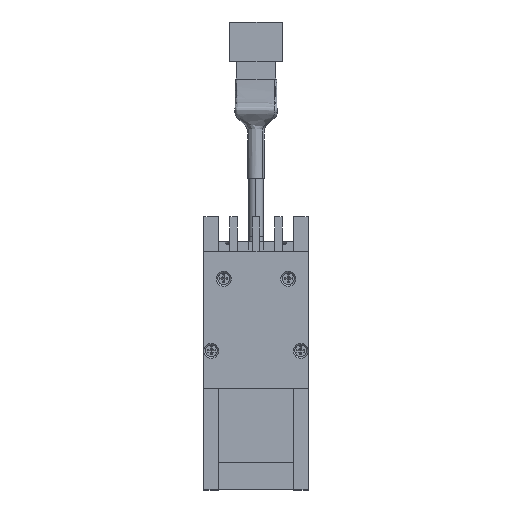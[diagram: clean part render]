
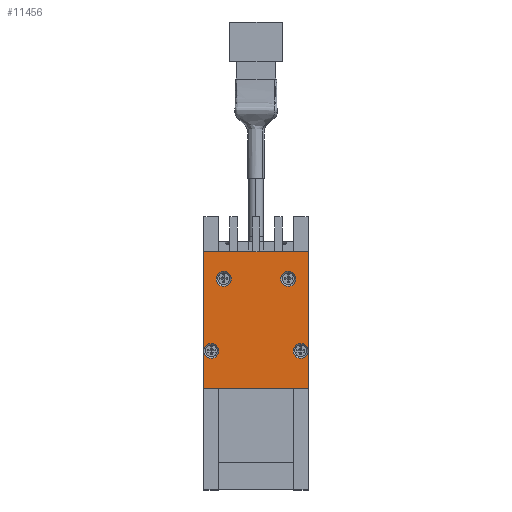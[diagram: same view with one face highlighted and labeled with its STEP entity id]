
A CAD part, front view. The second image highlights one B-rep face of the part: STEP entity #11456.
In plain terms, the highlighted planar face has unit normal (0, -1, 0).
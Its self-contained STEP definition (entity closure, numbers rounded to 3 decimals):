
#115 = LINE ( 'NONE', #14475, #6751 ) ;
#376 = EDGE_CURVE ( 'NONE', #4351, #19291, #6813, .T. ) ;
#711 = VECTOR ( 'NONE', #4181, 1000. ) ;
#1157 = VECTOR ( 'NONE', #3194, 1000. ) ;
#1279 = EDGE_CURVE ( 'NONE', #3621, #3084, #1948, .T. ) ;
#1294 = CARTESIAN_POINT ( 'NONE',  ( 6.5, -7.5, 29.5 ) ) ;
#1612 = AXIS2_PLACEMENT_3D ( 'NONE', #8179, #6284, #9794 ) ;
#1717 = VERTEX_POINT ( 'NONE', #15881 ) ;
#1757 = DIRECTION ( 'NONE',  ( 0., 0., 1. ) ) ;
#1937 = EDGE_CURVE ( 'NONE', #3084, #3621, #9182, .T. ) ;
#1948 = CIRCLE ( 'NONE', #5490, 1.5 ) ;
#2697 = ORIENTED_EDGE ( 'NONE', *, *, #1937, .F. ) ;
#2852 = DIRECTION ( 'NONE',  ( -1., 0., 0. ) ) ;
#2904 = ORIENTED_EDGE ( 'NONE', *, *, #4687, .F. ) ;
#2981 = CARTESIAN_POINT ( 'NONE',  ( -9., -7.5, 13.5 ) ) ;
#3084 = VERTEX_POINT ( 'NONE', #13062 ) ;
#3094 = VECTOR ( 'NONE', #17637, 1000. ) ;
#3194 = DIRECTION ( 'NONE',  ( 0., 0., 1. ) ) ;
#3370 = LINE ( 'NONE', #7767, #22114 ) ;
#3621 = VERTEX_POINT ( 'NONE', #8538 ) ;
#3804 = DIRECTION ( 'NONE',  ( 0., -1., 0. ) ) ;
#3852 = DIRECTION ( 'NONE',  ( 0., -1., 0. ) ) ;
#3950 = ORIENTED_EDGE ( 'NONE', *, *, #17209, .F. ) ;
#4076 = EDGE_CURVE ( 'NONE', #15916, #1717, #12455, .T. ) ;
#4181 = DIRECTION ( 'NONE',  ( 1., 0., 0. ) ) ;
#4187 = DIRECTION ( 'NONE',  ( 0., -1., 0. ) ) ;
#4351 = VERTEX_POINT ( 'NONE', #15507 ) ;
#4687 = EDGE_CURVE ( 'NONE', #15150, #13618, #6264, .T. ) ;
#4766 = DIRECTION ( 'NONE',  ( 0., -1., 0. ) ) ;
#5186 = DIRECTION ( 'NONE',  ( 0., -1., 0. ) ) ;
#5218 = EDGE_LOOP ( 'NONE', ( #21464, #20308, #18436, #8072, #10151, #13320, #11448, #2904, #11062, #3950, #19428, #9756 ) ) ;
#5425 = CARTESIAN_POINT ( 'NONE',  ( -10.5, -7.5, 35. ) ) ;
#5490 = AXIS2_PLACEMENT_3D ( 'NONE', #1294, #6337, #21932 ) ;
#5685 = LINE ( 'NONE', #11934, #1157 ) ;
#5701 = PLANE ( 'NONE',  #1612 ) ;
#5727 = DIRECTION ( 'NONE',  ( 0., 0., 1. ) ) ;
#6264 = CIRCLE ( 'NONE', #15629, 1.5 ) ;
#6284 = DIRECTION ( 'NONE',  ( 0., -1., 0. ) ) ;
#6337 = DIRECTION ( 'NONE',  ( 0., -1., 0. ) ) ;
#6393 = EDGE_CURVE ( 'NONE', #20035, #9930, #21101, .T. ) ;
#6521 = FACE_BOUND ( 'NONE', #10606, .T. ) ;
#6652 = DIRECTION ( 'NONE',  ( 0., 0., 1. ) ) ;
#6701 = ORIENTED_EDGE ( 'NONE', *, *, #1279, .F. ) ;
#6709 = CARTESIAN_POINT ( 'NONE',  ( -10.5, -7.5, 15. ) ) ;
#6751 = VECTOR ( 'NONE', #9219, 1000. ) ;
#6813 = CIRCLE ( 'NONE', #9200, 1.5 ) ;
#6941 = EDGE_CURVE ( 'NONE', #16908, #15150, #13304, .T. ) ;
#7322 = FACE_OUTER_BOUND ( 'NONE', #5218, .T. ) ;
#7469 = EDGE_LOOP ( 'NONE', ( #8620, #21344 ) ) ;
#7767 = CARTESIAN_POINT ( 'NONE',  ( -10.5, -7.5, 35. ) ) ;
#7894 = CIRCLE ( 'NONE', #13191, 1.5 ) ;
#8072 = ORIENTED_EDGE ( 'NONE', *, *, #20984, .F. ) ;
#8149 = CIRCLE ( 'NONE', #21007, 1.5 ) ;
#8179 = CARTESIAN_POINT ( 'NONE',  ( 0., -7.5, 21.25 ) ) ;
#8222 = CARTESIAN_POINT ( 'NONE',  ( -10.5, -7.5, 7.5 ) ) ;
#8281 = CIRCLE ( 'NONE', #14180, 1.5 ) ;
#8401 = AXIS2_PLACEMENT_3D ( 'NONE', #19336, #3804, #15805 ) ;
#8444 = LINE ( 'NONE', #5425, #3094 ) ;
#8517 = EDGE_CURVE ( 'NONE', #15192, #19873, #3370, .T. ) ;
#8538 = CARTESIAN_POINT ( 'NONE',  ( 6.5, -7.5, 28. ) ) ;
#8583 = CARTESIAN_POINT ( 'NONE',  ( -9., -7.5, 15. ) ) ;
#8620 = ORIENTED_EDGE ( 'NONE', *, *, #18310, .F. ) ;
#8780 = CARTESIAN_POINT ( 'NONE',  ( 6.5, -7.5, 29.5 ) ) ;
#8931 = DIRECTION ( 'NONE',  ( 0., -1., 0. ) ) ;
#9095 = DIRECTION ( 'NONE',  ( 0., 0., -1. ) ) ;
#9182 = CIRCLE ( 'NONE', #20573, 1.5 ) ;
#9200 = AXIS2_PLACEMENT_3D ( 'NONE', #13399, #4766, #6652 ) ;
#9219 = DIRECTION ( 'NONE',  ( 0., 0., 1. ) ) ;
#9276 = CARTESIAN_POINT ( 'NONE',  ( -9., -7.5, 15. ) ) ;
#9442 = DIRECTION ( 'NONE',  ( 0., -1., 0. ) ) ;
#9560 = DIRECTION ( 'NONE',  ( 0., 0., 1. ) ) ;
#9620 = VERTEX_POINT ( 'NONE', #12621 ) ;
#9660 = CARTESIAN_POINT ( 'NONE',  ( 9., -7.5, 15. ) ) ;
#9756 = ORIENTED_EDGE ( 'NONE', *, *, #4076, .T. ) ;
#9794 = DIRECTION ( 'NONE',  ( 0., 0., 1. ) ) ;
#9930 = VERTEX_POINT ( 'NONE', #22080 ) ;
#10151 = ORIENTED_EDGE ( 'NONE', *, *, #11763, .T. ) ;
#10247 = FACE_BOUND ( 'NONE', #7469, .T. ) ;
#10551 = CARTESIAN_POINT ( 'NONE',  ( -6.5, -7.5, 28. ) ) ;
#10606 = EDGE_LOOP ( 'NONE', ( #2697, #6701 ) ) ;
#11062 = ORIENTED_EDGE ( 'NONE', *, *, #6941, .F. ) ;
#11448 = ORIENTED_EDGE ( 'NONE', *, *, #11988, .T. ) ;
#11456 = ADVANCED_FACE ( 'NONE', ( #6521, #10247, #7322 ), #5701, .T. ) ;
#11763 = EDGE_CURVE ( 'NONE', #19291, #15192, #5685, .T. ) ;
#11934 = CARTESIAN_POINT ( 'NONE',  ( 10.5, -7.5, 35. ) ) ;
#11988 = EDGE_CURVE ( 'NONE', #19873, #13618, #21450, .T. ) ;
#12096 = DIRECTION ( 'NONE',  ( 0., 0., 1. ) ) ;
#12455 = LINE ( 'NONE', #16331, #711 ) ;
#12621 = CARTESIAN_POINT ( 'NONE',  ( 9., -7.5, 16.5 ) ) ;
#13039 = DIRECTION ( 'NONE',  ( 0., 0., 1. ) ) ;
#13062 = CARTESIAN_POINT ( 'NONE',  ( 6.5, -7.5, 31. ) ) ;
#13191 = AXIS2_PLACEMENT_3D ( 'NONE', #20764, #5186, #17329 ) ;
#13304 = CIRCLE ( 'NONE', #21820, 1.5 ) ;
#13320 = ORIENTED_EDGE ( 'NONE', *, *, #8517, .T. ) ;
#13399 = CARTESIAN_POINT ( 'NONE',  ( 9., -7.5, 15. ) ) ;
#13480 = DIRECTION ( 'NONE',  ( 0., -1., 0. ) ) ;
#13618 = VERTEX_POINT ( 'NONE', #6709 ) ;
#13752 = EDGE_CURVE ( 'NONE', #13618, #15916, #8444, .T. ) ;
#14180 = AXIS2_PLACEMENT_3D ( 'NONE', #9660, #9442, #13039 ) ;
#14475 = CARTESIAN_POINT ( 'NONE',  ( 10.5, -7.5, 35. ) ) ;
#14771 = VECTOR ( 'NONE', #9095, 1000. ) ;
#15000 = CARTESIAN_POINT ( 'NONE',  ( -10.5, -7.5, 35. ) ) ;
#15094 = CARTESIAN_POINT ( 'NONE',  ( 10.5, -7.5, 35. ) ) ;
#15150 = VERTEX_POINT ( 'NONE', #15318 ) ;
#15192 = VERTEX_POINT ( 'NONE', #15094 ) ;
#15318 = CARTESIAN_POINT ( 'NONE',  ( -9., -7.5, 16.5 ) ) ;
#15399 = AXIS2_PLACEMENT_3D ( 'NONE', #17561, #3852, #5727 ) ;
#15507 = CARTESIAN_POINT ( 'NONE',  ( 9., -7.5, 13.5 ) ) ;
#15629 = AXIS2_PLACEMENT_3D ( 'NONE', #9276, #4187, #9560 ) ;
#15805 = DIRECTION ( 'NONE',  ( 0., 0., 1. ) ) ;
#15881 = CARTESIAN_POINT ( 'NONE',  ( 10.5, -7.5, 7.5 ) ) ;
#15916 = VERTEX_POINT ( 'NONE', #8222 ) ;
#16013 = CARTESIAN_POINT ( 'NONE',  ( -10.5, -7.5, 35. ) ) ;
#16331 = CARTESIAN_POINT ( 'NONE',  ( -10.5, -7.5, 7.5 ) ) ;
#16593 = CARTESIAN_POINT ( 'NONE',  ( 10.5, -7.5, 15. ) ) ;
#16908 = VERTEX_POINT ( 'NONE', #2981 ) ;
#17091 = EDGE_CURVE ( 'NONE', #9620, #4351, #8281, .T. ) ;
#17209 = EDGE_CURVE ( 'NONE', #13618, #16908, #17901, .T. ) ;
#17329 = DIRECTION ( 'NONE',  ( 0., 0., 1. ) ) ;
#17561 = CARTESIAN_POINT ( 'NONE',  ( -9., -7.5, 15. ) ) ;
#17637 = DIRECTION ( 'NONE',  ( 0., 0., -1. ) ) ;
#17901 = CIRCLE ( 'NONE', #15399, 1.5 ) ;
#18310 = EDGE_CURVE ( 'NONE', #9930, #20035, #8149, .T. ) ;
#18436 = ORIENTED_EDGE ( 'NONE', *, *, #17091, .F. ) ;
#18949 = EDGE_CURVE ( 'NONE', #1717, #19291, #115, .T. ) ;
#19113 = DIRECTION ( 'NONE',  ( 0., -1., 0. ) ) ;
#19291 = VERTEX_POINT ( 'NONE', #16593 ) ;
#19336 = CARTESIAN_POINT ( 'NONE',  ( -6.5, -7.5, 29.5 ) ) ;
#19428 = ORIENTED_EDGE ( 'NONE', *, *, #13752, .T. ) ;
#19873 = VERTEX_POINT ( 'NONE', #15000 ) ;
#20035 = VERTEX_POINT ( 'NONE', #10551 ) ;
#20302 = CARTESIAN_POINT ( 'NONE',  ( -6.5, -7.5, 29.5 ) ) ;
#20308 = ORIENTED_EDGE ( 'NONE', *, *, #376, .F. ) ;
#20573 = AXIS2_PLACEMENT_3D ( 'NONE', #8780, #8931, #20910 ) ;
#20764 = CARTESIAN_POINT ( 'NONE',  ( 9., -7.5, 15. ) ) ;
#20910 = DIRECTION ( 'NONE',  ( 0., 0., 1. ) ) ;
#20984 = EDGE_CURVE ( 'NONE', #19291, #9620, #7894, .T. ) ;
#21007 = AXIS2_PLACEMENT_3D ( 'NONE', #20302, #13480, #1757 ) ;
#21101 = CIRCLE ( 'NONE', #8401, 1.5 ) ;
#21344 = ORIENTED_EDGE ( 'NONE', *, *, #6393, .F. ) ;
#21450 = LINE ( 'NONE', #16013, #14771 ) ;
#21464 = ORIENTED_EDGE ( 'NONE', *, *, #18949, .T. ) ;
#21820 = AXIS2_PLACEMENT_3D ( 'NONE', #8583, #19113, #12096 ) ;
#21932 = DIRECTION ( 'NONE',  ( 0., 0., 1. ) ) ;
#22080 = CARTESIAN_POINT ( 'NONE',  ( -6.5, -7.5, 31. ) ) ;
#22114 = VECTOR ( 'NONE', #2852, 1000. ) ;
